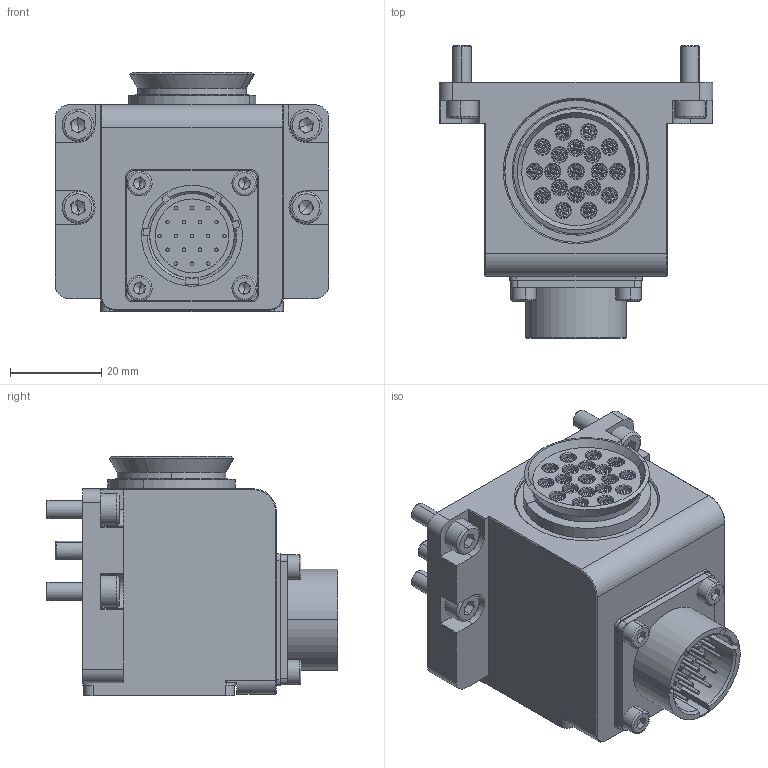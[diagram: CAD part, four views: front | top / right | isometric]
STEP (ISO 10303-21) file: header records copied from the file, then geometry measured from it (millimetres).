
FILE_DESCRIPTION (( 'STEP AP203' ), '1' );
FILE_NAME ('QCSM-19R.STEP', '2025-04-03T07:40:45', ( '' ), ( '' ), 'SwSTEP 2.0', 'SolidWorks 2022', '' );
FILE_SCHEMA (( 'CONFIG_CONTROL_DESIGN' ));
Length unit declared in the file: millimetre
Products named in the file (1): QCSM-19R
Bounding box: 60 x 63.97 x 52.4 mm (x, y, z)
Volume: 87631.2 mm3; surface area: 21757.2 mm2
Topology: 1 solids, 20 shells, 1406 faces, 3095 edges, 1800 vertices
Faces by surface type: plane 795, cylinder 317, cone 268, torus 24, bspline 2
Entity records: 38676 total; most frequent: CARTESIAN_POINT 8421, DIRECTION 6468, ORIENTED_EDGE 6122, EDGE_CURVE 3061, AXIS2_PLACEMENT_3D 2376, VERTEX_POINT 1800, VECTOR 1716, LINE 1716
